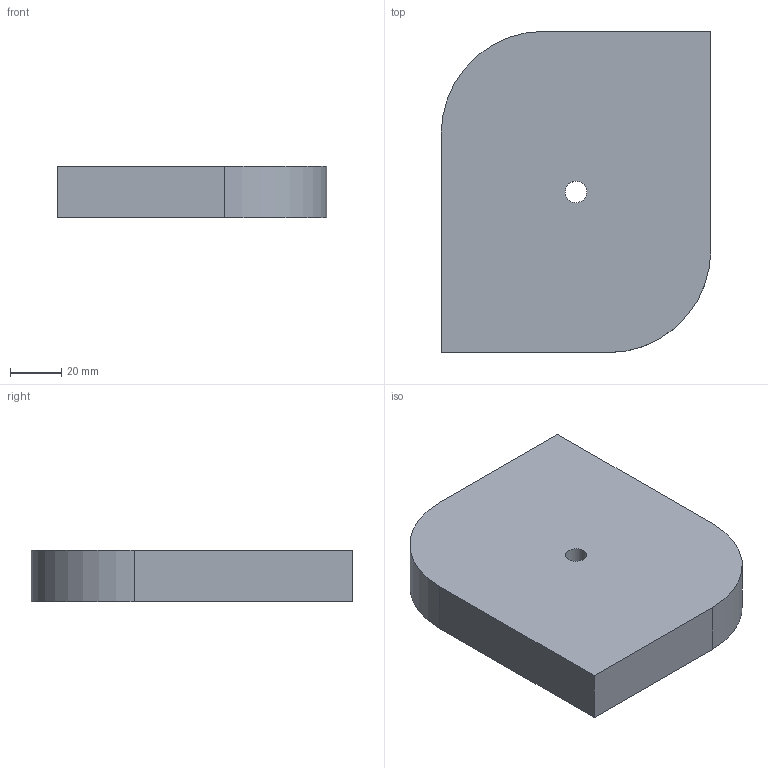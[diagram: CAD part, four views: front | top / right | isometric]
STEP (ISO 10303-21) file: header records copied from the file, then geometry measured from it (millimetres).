
FILE_DESCRIPTION(('CATIA V5 STEP Exchange'),'2;1');
FILE_NAME('C:\_Andres\UNIVERSIDAD\IQS\ASIGNATURAS\DAO\EXF\EXF-15161c\1original\Massaneda_Tuneu_Ej01-plano_v15.stp','2016-03-04T14:59:45+00:00',('none'),('none'),'CATIA Version 5 Release 20 SP 1 (IN-10)','CATIA V5 STEP AP203','none');
FILE_SCHEMA(('CONFIG_CONTROL_DESIGN'));
Length unit declared in the file: millimetre
Products named in the file (1): Massaneda_Tuneu_Ej01-plano_v15
Bounding box: 105 x 125 x 20 mm (x, y, z)
Volume: 247663.5 mm3; surface area: 33805.9 mm2
Topology: 1 solids, 1 shells, 10 faces, 24 edges, 16 vertices
Faces by surface type: plane 6, cylinder 4
Entity records: 333 total; most frequent: CARTESIAN_POINT 51, ORIENTED_EDGE 48, DIRECTION 44, EDGE_CURVE 24, AXIS2_PLACEMENT_3D 19, VECTOR 16, LINE 16, VERTEX_POINT 16
